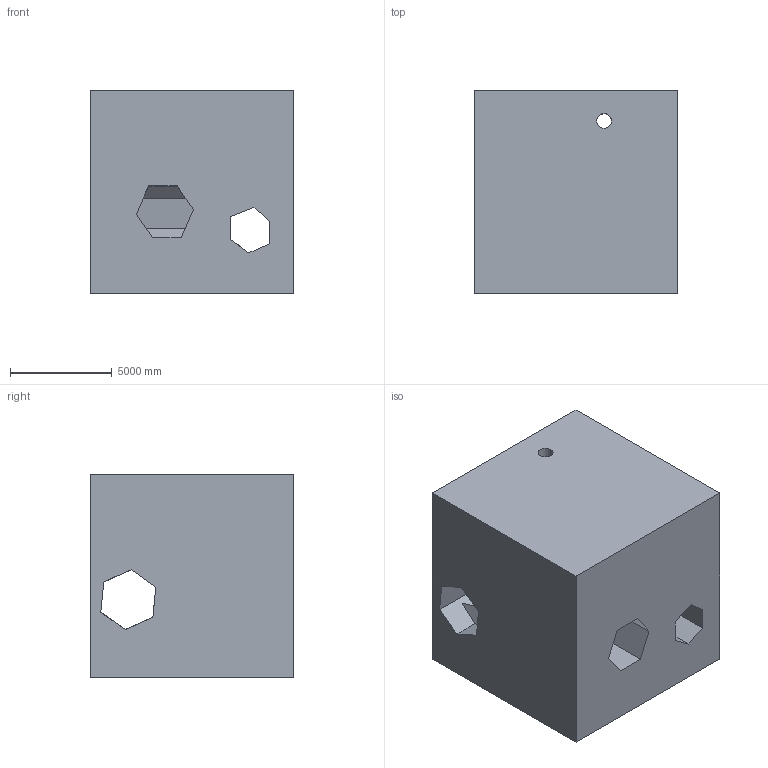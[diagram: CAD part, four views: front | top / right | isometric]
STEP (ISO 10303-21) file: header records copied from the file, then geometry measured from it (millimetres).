
FILE_DESCRIPTION (( 'STEP AP203' ), '1' );
FILE_NAME ('157.STEP', '2022-09-05T15:48:29', ( 'user' ), ( '' ), 'SwSTEP 2.0', 'SolidWorks 2021', '' );
FILE_SCHEMA (( 'CONFIG_CONTROL_DESIGN' ));
Length unit declared in the file: centimetre
Products named in the file (1): 157
Bounding box: 10000 x 10000 x 10000 mm (x, y, z)
Volume: 860649916643.8 mm3; surface area: 823288510.6 mm2
Topology: 1 solids, 1 shells, 48 faces, 150 edges, 100 vertices
Faces by surface type: plane 42, cylinder 6
Entity records: 1747 total; most frequent: CARTESIAN_POINT 317, ORIENTED_EDGE 300, DIRECTION 250, EDGE_CURVE 150, VECTOR 136, LINE 136, VERTEX_POINT 100, EDGE_LOOP 58
